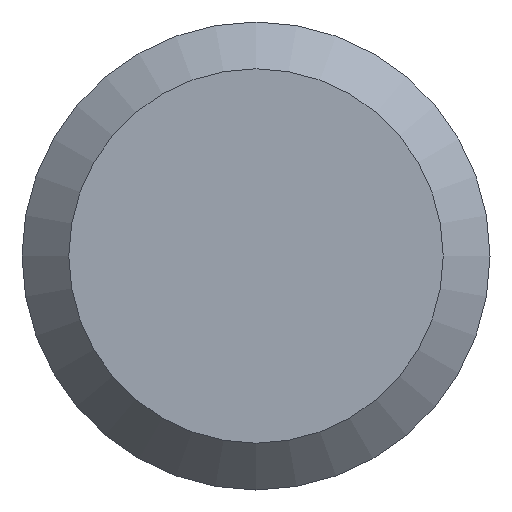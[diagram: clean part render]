
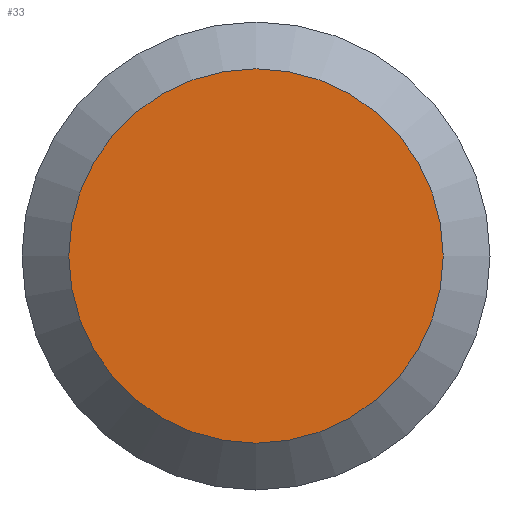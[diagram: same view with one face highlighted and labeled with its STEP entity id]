
A CAD part, left-side view. The second image highlights one B-rep face of the part: STEP entity #33.
In plain terms, the highlighted planar face has unit normal (-1, 0, 0).
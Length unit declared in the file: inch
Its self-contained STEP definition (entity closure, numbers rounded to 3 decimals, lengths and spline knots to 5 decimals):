
#33 = ADVANCED_FACE ( 'NONE', ( #191 ), #234, .F. ) ;
#53 = ORIENTED_EDGE ( 'NONE', *, *, #224, .T. ) ;
#70 = DIRECTION ( 'NONE',  ( 0., 0., -1. ) ) ;
#72 = CARTESIAN_POINT ( 'NONE',  ( 0., 0., 0. ) ) ;
#86 = DIRECTION ( 'NONE',  ( 0., 0., -1. ) ) ;
#131 = CIRCLE ( 'NONE', #231, 0.025 ) ;
#142 = CARTESIAN_POINT ( 'NONE',  ( 0., 0.03125, 0. ) ) ;
#149 = DIRECTION ( 'NONE',  ( -1., 0., 0. ) ) ;
#160 = CARTESIAN_POINT ( 'NONE',  ( 0., 0., -0.025 ) ) ;
#169 = VERTEX_POINT ( 'NONE', #160 ) ;
#191 = FACE_OUTER_BOUND ( 'NONE', #205, .T. ) ;
#205 = EDGE_LOOP ( 'NONE', ( #53 ) ) ;
#218 = AXIS2_PLACEMENT_3D ( 'NONE', #142, #223, #70 ) ;
#223 = DIRECTION ( 'NONE',  ( 1., 0., 0. ) ) ;
#224 = EDGE_CURVE ( 'NONE', #169, #169, #131, .T. ) ;
#231 = AXIS2_PLACEMENT_3D ( 'NONE', #72, #149, #86 ) ;
#234 = PLANE ( 'NONE',  #218 ) ;
